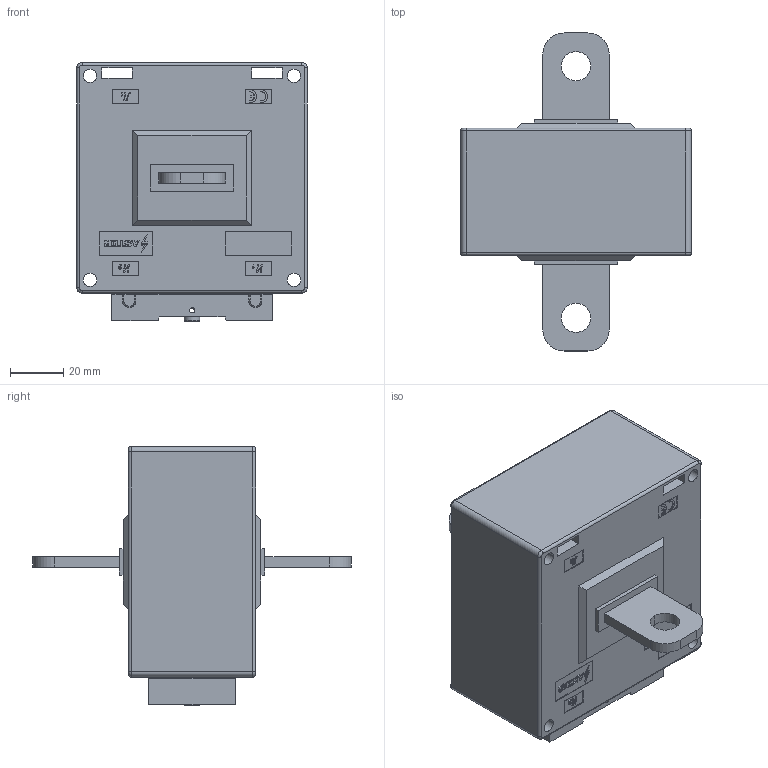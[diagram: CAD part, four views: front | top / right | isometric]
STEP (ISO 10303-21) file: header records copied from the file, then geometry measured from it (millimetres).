
FILE_DESCRIPTION (( 'STEP AP203' ), '1' );
FILE_NAME ('ﾒﾒ-ﾀ (30-300 A).STEP', '2016-12-19T10:37:02', ( '' ), ( '' ), 'SwSTEP 2.0', 'SolidWorks 2015', '' );
FILE_SCHEMA (( 'CONFIG_CONTROL_DESIGN' ));
Length unit declared in the file: millimetre
Products named in the file (1): ﾒﾒ-ﾀ (30-300 A)
Bounding box: 87 x 120 x 97.7 mm (x, y, z)
Volume: 377055 mm3; surface area: 52998.2 mm2
Topology: 2 solids, 2 shells, 1077 faces, 2816 edges, 1808 vertices
Faces by surface type: plane 609, bspline 255, cylinder 185, cone 20, torus 8
Entity records: 41204 total; most frequent: CARTESIAN_POINT 16570, ORIENTED_EDGE 5616, DIRECTION 4038, EDGE_CURVE 2808, LINE 1872, VECTOR 1872, VERTEX_POINT 1808, EDGE_LOOP 1190
